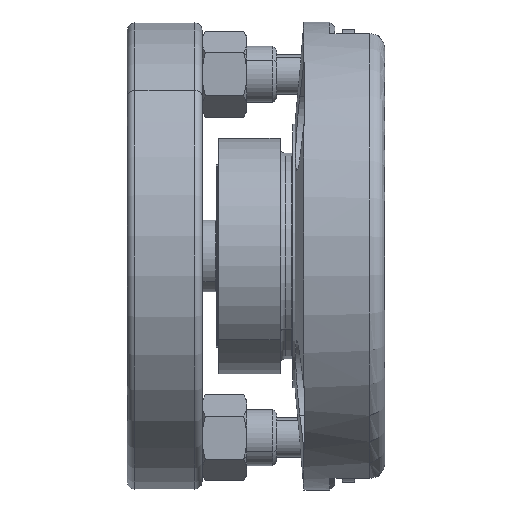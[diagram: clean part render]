
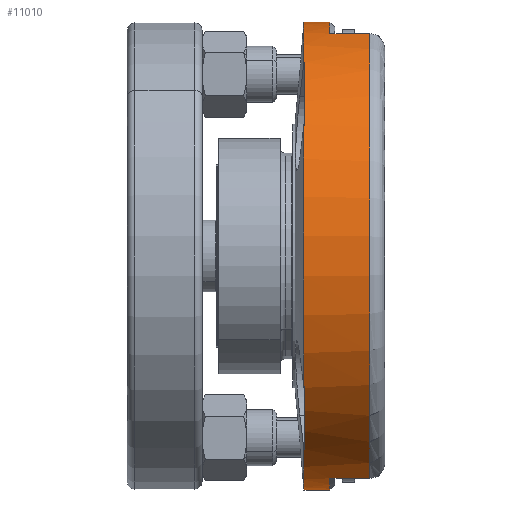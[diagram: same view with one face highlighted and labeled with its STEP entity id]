
A CAD part, left-side view. The second image highlights one B-rep face of the part: STEP entity #11010.
In plain terms, the highlighted cylindrical face has radius 94 mm (diameter 188 mm), a partial arc.
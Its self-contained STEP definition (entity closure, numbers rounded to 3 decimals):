
#204 = DIRECTION ( 'NONE',  ( 0., 0., -1. ) ) ;
#275 = ORIENTED_EDGE ( 'NONE', *, *, #9427, .T. ) ;
#350 = LINE ( 'NONE', #1307, #2962 ) ;
#438 = ORIENTED_EDGE ( 'NONE', *, *, #10494, .F. ) ;
#671 = DIRECTION ( 'NONE',  ( 0., -1., 0. ) ) ;
#711 = ORIENTED_EDGE ( 'NONE', *, *, #9185, .T. ) ;
#740 = CARTESIAN_POINT ( 'NONE',  ( -77.68, 32., -52.932 ) ) ;
#857 = CIRCLE ( 'NONE', #4516, 94. ) ;
#904 = AXIS2_PLACEMENT_3D ( 'NONE', #8662, #1825, #11521 ) ;
#1114 = VERTEX_POINT ( 'NONE', #3005 ) ;
#1226 = DIRECTION ( 'NONE',  ( 0., 1., 0. ) ) ;
#1307 = CARTESIAN_POINT ( 'NONE',  ( -77.68, 0., 52.932 ) ) ;
#1342 = EDGE_CURVE ( 'NONE', #1114, #6232, #5433, .T. ) ;
#1409 = VECTOR ( 'NONE', #7800, 1000. ) ;
#1558 = CIRCLE ( 'NONE', #10118, 94. ) ;
#1792 = VERTEX_POINT ( 'NONE', #3484 ) ;
#1825 = DIRECTION ( 'NONE',  ( 0., -1., 0. ) ) ;
#1933 = CARTESIAN_POINT ( 'NONE',  ( -29.386, 0., 89.288 ) ) ;
#1958 = VERTEX_POINT ( 'NONE', #6609 ) ;
#2123 = ORIENTED_EDGE ( 'NONE', *, *, #7139, .T. ) ;
#2181 = CARTESIAN_POINT ( 'NONE',  ( 0., 32.413, -94. ) ) ;
#2195 = CIRCLE ( 'NONE', #10002, 94. ) ;
#2273 = VERTEX_POINT ( 'NONE', #8733 ) ;
#2335 = CARTESIAN_POINT ( 'NONE',  ( -52.932, 32.413, 77.68 ) ) ;
#2631 = VECTOR ( 'NONE', #6123, 1000. ) ;
#2962 = VECTOR ( 'NONE', #6238, 1000. ) ;
#2965 = DIRECTION ( 'NONE',  ( 0., 1., 0. ) ) ;
#3005 = CARTESIAN_POINT ( 'NONE',  ( -52.932, 32., 77.68 ) ) ;
#3064 = AXIS2_PLACEMENT_3D ( 'NONE', #3204, #10022, #4180 ) ;
#3119 = CARTESIAN_POINT ( 'NONE',  ( 0., 32., 0. ) ) ;
#3191 = VERTEX_POINT ( 'NONE', #9852 ) ;
#3204 = CARTESIAN_POINT ( 'NONE',  ( 0., 32.413, 0. ) ) ;
#3223 = EDGE_CURVE ( 'NONE', #7593, #7169, #10040, .T. ) ;
#3371 = CARTESIAN_POINT ( 'NONE',  ( -52.932, 0., 77.68 ) ) ;
#3484 = CARTESIAN_POINT ( 'NONE',  ( 0., 32.413, 94. ) ) ;
#3536 = CYLINDRICAL_SURFACE ( 'NONE', #904, 94. ) ;
#3806 = VERTEX_POINT ( 'NONE', #740 ) ;
#3856 = VECTOR ( 'NONE', #9259, 1000. ) ;
#3961 = CARTESIAN_POINT ( 'NONE',  ( -77.68, 32.413, -52.932 ) ) ;
#4104 = DIRECTION ( 'NONE',  ( 0., 0., 1. ) ) ;
#4110 = CARTESIAN_POINT ( 'NONE',  ( 0., 6., 0. ) ) ;
#4180 = DIRECTION ( 'NONE',  ( 0., 0., -1. ) ) ;
#4200 = LINE ( 'NONE', #1933, #11361 ) ;
#4222 = EDGE_CURVE ( 'NONE', #5606, #3806, #857, .T. ) ;
#4376 = CARTESIAN_POINT ( 'NONE',  ( -29.386, 22., 89.288 ) ) ;
#4377 = ORIENTED_EDGE ( 'NONE', *, *, #3223, .T. ) ;
#4516 = AXIS2_PLACEMENT_3D ( 'NONE', #8830, #2965, #9798 ) ;
#4575 = ORIENTED_EDGE ( 'NONE', *, *, #7322, .T. ) ;
#4964 = AXIS2_PLACEMENT_3D ( 'NONE', #4110, #10911, #5091 ) ;
#5091 = DIRECTION ( 'NONE',  ( 0., 0., -1. ) ) ;
#5129 = VECTOR ( 'NONE', #10190, 1000. ) ;
#5231 = LINE ( 'NONE', #7070, #2631 ) ;
#5428 = CIRCLE ( 'NONE', #4964, 94. ) ;
#5433 = LINE ( 'NONE', #3371, #5129 ) ;
#5606 = VERTEX_POINT ( 'NONE', #6000 ) ;
#5737 = DIRECTION ( 'NONE',  ( 0., 1., 0. ) ) ;
#5760 = VERTEX_POINT ( 'NONE', #12060 ) ;
#5872 = CIRCLE ( 'NONE', #3064, 94. ) ;
#5971 = CARTESIAN_POINT ( 'NONE',  ( -52.932, 0., -77.68 ) ) ;
#6000 = CARTESIAN_POINT ( 'NONE',  ( -52.932, 32., -77.68 ) ) ;
#6042 = DIRECTION ( 'NONE',  ( 0., -1., 0. ) ) ;
#6123 = DIRECTION ( 'NONE',  ( 0., -1., 0. ) ) ;
#6232 = VERTEX_POINT ( 'NONE', #2335 ) ;
#6238 = DIRECTION ( 'NONE',  ( 0., -1., 0. ) ) ;
#6311 = CARTESIAN_POINT ( 'NONE',  ( -29.386, 0., -89.288 ) ) ;
#6348 = ORIENTED_EDGE ( 'NONE', *, *, #8657, .F. ) ;
#6548 = CARTESIAN_POINT ( 'NONE',  ( 0., 32.413, 0. ) ) ;
#6609 = CARTESIAN_POINT ( 'NONE',  ( 0., 22., 94. ) ) ;
#6745 = ORIENTED_EDGE ( 'NONE', *, *, #7916, .T. ) ;
#6945 = AXIS2_PLACEMENT_3D ( 'NONE', #7095, #1226, #8088 ) ;
#7070 = CARTESIAN_POINT ( 'NONE',  ( 0., 0., 94. ) ) ;
#7095 = CARTESIAN_POINT ( 'NONE',  ( 0., 22., 0. ) ) ;
#7135 = DIRECTION ( 'NONE',  ( 0., 1., 0. ) ) ;
#7139 = EDGE_CURVE ( 'NONE', #3191, #2273, #5428, .T. ) ;
#7169 = VERTEX_POINT ( 'NONE', #2181 ) ;
#7322 = EDGE_CURVE ( 'NONE', #2273, #10049, #4200, .T. ) ;
#7396 = CIRCLE ( 'NONE', #6945, 94. ) ;
#7411 = CARTESIAN_POINT ( 'NONE',  ( -52.932, 32.413, -77.68 ) ) ;
#7542 = DIRECTION ( 'NONE',  ( 0., 0., -1. ) ) ;
#7567 = ORIENTED_EDGE ( 'NONE', *, *, #9904, .F. ) ;
#7593 = VERTEX_POINT ( 'NONE', #7411 ) ;
#7708 = ORIENTED_EDGE ( 'NONE', *, *, #12232, .T. ) ;
#7800 = DIRECTION ( 'NONE',  ( 0., -1., 0. ) ) ;
#7916 = EDGE_CURVE ( 'NONE', #1792, #6232, #10591, .T. ) ;
#8088 = DIRECTION ( 'NONE',  ( 0., 0., -1. ) ) ;
#8333 = LINE ( 'NONE', #11199, #10580 ) ;
#8381 = ORIENTED_EDGE ( 'NONE', *, *, #12395, .F. ) ;
#8560 = ORIENTED_EDGE ( 'NONE', *, *, #10308, .T. ) ;
#8639 = VERTEX_POINT ( 'NONE', #11984 ) ;
#8657 = EDGE_CURVE ( 'NONE', #3806, #9895, #8333, .T. ) ;
#8662 = CARTESIAN_POINT ( 'NONE',  ( 0., 0., 0. ) ) ;
#8733 = CARTESIAN_POINT ( 'NONE',  ( -29.386, 6., 89.288 ) ) ;
#8780 = AXIS2_PLACEMENT_3D ( 'NONE', #11897, #6042, #204 ) ;
#8830 = CARTESIAN_POINT ( 'NONE',  ( 0., 32., 0. ) ) ;
#9050 = FACE_OUTER_BOUND ( 'NONE', #12031, .T. ) ;
#9070 = LINE ( 'NONE', #6311, #3856 ) ;
#9160 = ORIENTED_EDGE ( 'NONE', *, *, #1342, .F. ) ;
#9185 = EDGE_CURVE ( 'NONE', #7169, #10947, #11799, .T. ) ;
#9259 = DIRECTION ( 'NONE',  ( 0., -1., 0. ) ) ;
#9427 = EDGE_CURVE ( 'NONE', #10947, #10919, #7396, .T. ) ;
#9586 = EDGE_CURVE ( 'NONE', #10919, #3191, #9070, .T. ) ;
#9618 = ORIENTED_EDGE ( 'NONE', *, *, #11791, .T. ) ;
#9749 = DIRECTION ( 'NONE',  ( 0., 1., 0. ) ) ;
#9798 = DIRECTION ( 'NONE',  ( 0., 0., -1. ) ) ;
#9819 = LINE ( 'NONE', #5971, #12406 ) ;
#9852 = CARTESIAN_POINT ( 'NONE',  ( -29.386, 6., -89.288 ) ) ;
#9895 = VERTEX_POINT ( 'NONE', #3961 ) ;
#9904 = EDGE_CURVE ( 'NONE', #7593, #5606, #9819, .T. ) ;
#9951 = DIRECTION ( 'NONE',  ( 0., -1., 0. ) ) ;
#10002 = AXIS2_PLACEMENT_3D ( 'NONE', #3119, #9951, #4104 ) ;
#10022 = DIRECTION ( 'NONE',  ( 0., -1., 0. ) ) ;
#10040 = CIRCLE ( 'NONE', #8780, 94. ) ;
#10049 = VERTEX_POINT ( 'NONE', #4376 ) ;
#10118 = AXIS2_PLACEMENT_3D ( 'NONE', #11568, #5737, #12561 ) ;
#10190 = DIRECTION ( 'NONE',  ( 0., 1., 0. ) ) ;
#10308 = EDGE_CURVE ( 'NONE', #10049, #1958, #1558, .T. ) ;
#10423 = CARTESIAN_POINT ( 'NONE',  ( -29.386, 22., -89.288 ) ) ;
#10460 = CARTESIAN_POINT ( 'NONE',  ( 0., 22., -94. ) ) ;
#10494 = EDGE_CURVE ( 'NONE', #1792, #1958, #5231, .T. ) ;
#10497 = ORIENTED_EDGE ( 'NONE', *, *, #9586, .T. ) ;
#10580 = VECTOR ( 'NONE', #7135, 1000. ) ;
#10591 = CIRCLE ( 'NONE', #12302, 94. ) ;
#10657 = CARTESIAN_POINT ( 'NONE',  ( 0., 0., -94. ) ) ;
#10911 = DIRECTION ( 'NONE',  ( 0., 1., 0. ) ) ;
#10919 = VERTEX_POINT ( 'NONE', #10423 ) ;
#10947 = VERTEX_POINT ( 'NONE', #10460 ) ;
#11010 = ADVANCED_FACE ( 'NONE', ( #9050 ), #3536, .T. ) ;
#11199 = CARTESIAN_POINT ( 'NONE',  ( -77.68, 0., -52.932 ) ) ;
#11361 = VECTOR ( 'NONE', #9749, 1000. ) ;
#11521 = DIRECTION ( 'NONE',  ( 0., 0., -1. ) ) ;
#11568 = CARTESIAN_POINT ( 'NONE',  ( 0., 22., 0. ) ) ;
#11791 = EDGE_CURVE ( 'NONE', #5760, #9895, #5872, .T. ) ;
#11798 = DIRECTION ( 'NONE',  ( 0., -1., 0. ) ) ;
#11799 = LINE ( 'NONE', #10657, #1409 ) ;
#11897 = CARTESIAN_POINT ( 'NONE',  ( 0., 32.413, 0. ) ) ;
#11984 = CARTESIAN_POINT ( 'NONE',  ( -77.68, 32., 52.932 ) ) ;
#12031 = EDGE_LOOP ( 'NONE', ( #438, #6745, #9160, #7708, #8381, #9618, #6348, #12638, #7567, #4377, #711, #275, #10497, #2123, #4575, #8560 ) ) ;
#12060 = CARTESIAN_POINT ( 'NONE',  ( -77.68, 32.413, 52.932 ) ) ;
#12232 = EDGE_CURVE ( 'NONE', #1114, #8639, #2195, .T. ) ;
#12302 = AXIS2_PLACEMENT_3D ( 'NONE', #6548, #671, #7542 ) ;
#12395 = EDGE_CURVE ( 'NONE', #5760, #8639, #350, .T. ) ;
#12406 = VECTOR ( 'NONE', #11798, 1000. ) ;
#12561 = DIRECTION ( 'NONE',  ( 0., 0., -1. ) ) ;
#12638 = ORIENTED_EDGE ( 'NONE', *, *, #4222, .F. ) ;
